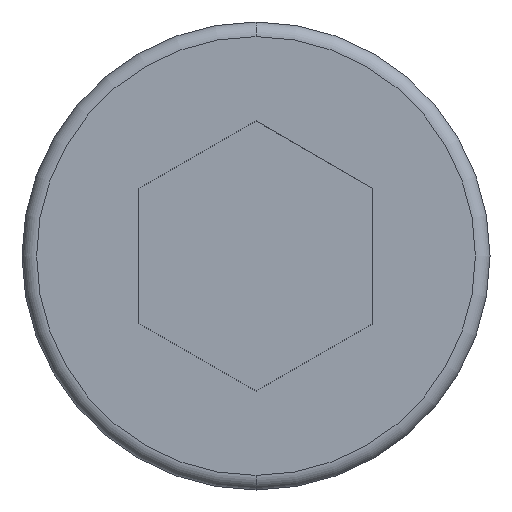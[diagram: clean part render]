
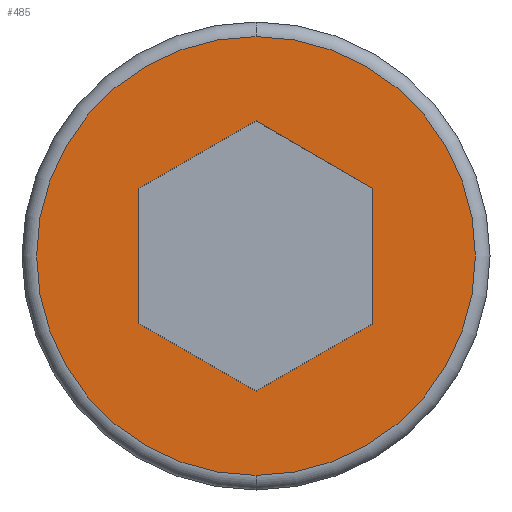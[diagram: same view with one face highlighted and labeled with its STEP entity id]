
A CAD part, front view. The second image highlights one B-rep face of the part: STEP entity #485.
In plain terms, the highlighted planar face has unit normal (0, -1, 0).
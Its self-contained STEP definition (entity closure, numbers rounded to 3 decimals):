
#14 = PLANE ( 'NONE',  #593 ) ;
#16 = CARTESIAN_POINT ( 'NONE',  ( -4., -10., 2.309 ) ) ;
#17 = LINE ( 'NONE', #445, #703 ) ;
#21 = LINE ( 'NONE', #427, #636 ) ;
#35 = VERTEX_POINT ( 'NONE', #471 ) ;
#42 = DIRECTION ( 'NONE',  ( -0.866, 0., -0.5 ) ) ;
#45 = DIRECTION ( 'NONE',  ( 0., -1., 0. ) ) ;
#57 = CIRCLE ( 'NONE', #82, 7.5 ) ;
#70 = CARTESIAN_POINT ( 'NONE',  ( -4., -10., -2.309 ) ) ;
#73 = CARTESIAN_POINT ( 'NONE',  ( -4., -10., -2.309 ) ) ;
#74 = CARTESIAN_POINT ( 'NONE',  ( 0., -10., -4.619 ) ) ;
#77 = VECTOR ( 'NONE', #628, 1000. ) ;
#82 = AXIS2_PLACEMENT_3D ( 'NONE', #508, #45, #108 ) ;
#84 = CARTESIAN_POINT ( 'NONE',  ( 4., -10., -2.309 ) ) ;
#107 = EDGE_LOOP ( 'NONE', ( #401, #743 ) ) ;
#108 = DIRECTION ( 'NONE',  ( 0., 0., -1. ) ) ;
#126 = EDGE_LOOP ( 'NONE', ( #270, #179, #190, #450, #235, #644 ) ) ;
#127 = CARTESIAN_POINT ( 'NONE',  ( 0., -10., -7.5 ) ) ;
#157 = VERTEX_POINT ( 'NONE', #127 ) ;
#159 = CARTESIAN_POINT ( 'NONE',  ( 0., -10., -4.619 ) ) ;
#161 = VERTEX_POINT ( 'NONE', #525 ) ;
#163 = DIRECTION ( 'NONE',  ( 0., -1., 0. ) ) ;
#174 = CARTESIAN_POINT ( 'NONE',  ( 4., -10., 2.309 ) ) ;
#179 = ORIENTED_EDGE ( 'NONE', *, *, #464, .F. ) ;
#190 = ORIENTED_EDGE ( 'NONE', *, *, #674, .F. ) ;
#222 = DIRECTION ( 'NONE',  ( 0., 0., -1. ) ) ;
#227 = VERTEX_POINT ( 'NONE', #74 ) ;
#235 = ORIENTED_EDGE ( 'NONE', *, *, #425, .F. ) ;
#250 = VECTOR ( 'NONE', #42, 1000. ) ;
#258 = EDGE_CURVE ( 'NONE', #737, #35, #21, .T. ) ;
#270 = ORIENTED_EDGE ( 'NONE', *, *, #483, .F. ) ;
#286 = FACE_OUTER_BOUND ( 'NONE', #107, .T. ) ;
#330 = DIRECTION ( 'NONE',  ( 0., 0., -1. ) ) ;
#388 = CARTESIAN_POINT ( 'NONE',  ( 0., -10., 4.619 ) ) ;
#401 = ORIENTED_EDGE ( 'NONE', *, *, #418, .T. ) ;
#418 = EDGE_CURVE ( 'NONE', #157, #161, #57, .T. ) ;
#419 = CIRCLE ( 'NONE', #690, 7.5 ) ;
#425 = EDGE_CURVE ( 'NONE', #35, #769, #757, .T. ) ;
#427 = CARTESIAN_POINT ( 'NONE',  ( 4., -10., 2.309 ) ) ;
#430 = VECTOR ( 'NONE', #744, 1000. ) ;
#445 = CARTESIAN_POINT ( 'NONE',  ( -4., -10., 2.309 ) ) ;
#450 = ORIENTED_EDGE ( 'NONE', *, *, #770, .F. ) ;
#464 = EDGE_CURVE ( 'NONE', #227, #577, #587, .T. ) ;
#471 = CARTESIAN_POINT ( 'NONE',  ( 0., -10., 4.619 ) ) ;
#483 = EDGE_CURVE ( 'NONE', #577, #737, #772, .T. ) ;
#485 = ADVANCED_FACE ( 'NONE', ( #286, #512 ), #14, .T. ) ;
#504 = LINE ( 'NONE', #73, #634 ) ;
#508 = CARTESIAN_POINT ( 'NONE',  ( 0., -10., 0. ) ) ;
#512 = FACE_BOUND ( 'NONE', #126, .T. ) ;
#525 = CARTESIAN_POINT ( 'NONE',  ( 0., -10., 7.5 ) ) ;
#535 = DIRECTION ( 'NONE',  ( -0.866, 0., 0.5 ) ) ;
#550 = CARTESIAN_POINT ( 'NONE',  ( 0., -10., 0. ) ) ;
#552 = DIRECTION ( 'NONE',  ( 0., -1., 0. ) ) ;
#577 = VERTEX_POINT ( 'NONE', #84 ) ;
#587 = LINE ( 'NONE', #159, #77 ) ;
#593 = AXIS2_PLACEMENT_3D ( 'NONE', #748, #552, #626 ) ;
#626 = DIRECTION ( 'NONE',  ( 0., 0., -1. ) ) ;
#628 = DIRECTION ( 'NONE',  ( 0.866, 0., 0.5 ) ) ;
#634 = VECTOR ( 'NONE', #733, 1000. ) ;
#636 = VECTOR ( 'NONE', #535, 1000. ) ;
#644 = ORIENTED_EDGE ( 'NONE', *, *, #258, .F. ) ;
#674 = EDGE_CURVE ( 'NONE', #675, #227, #504, .T. ) ;
#675 = VERTEX_POINT ( 'NONE', #70 ) ;
#677 = CARTESIAN_POINT ( 'NONE',  ( 4., -10., -2.309 ) ) ;
#690 = AXIS2_PLACEMENT_3D ( 'NONE', #550, #163, #330 ) ;
#703 = VECTOR ( 'NONE', #222, 1000. ) ;
#733 = DIRECTION ( 'NONE',  ( 0.866, 0., -0.5 ) ) ;
#737 = VERTEX_POINT ( 'NONE', #174 ) ;
#743 = ORIENTED_EDGE ( 'NONE', *, *, #759, .T. ) ;
#744 = DIRECTION ( 'NONE',  ( 0., 0., 1. ) ) ;
#748 = CARTESIAN_POINT ( 'NONE',  ( 0., -10., 0. ) ) ;
#757 = LINE ( 'NONE', #388, #250 ) ;
#759 = EDGE_CURVE ( 'NONE', #161, #157, #419, .T. ) ;
#769 = VERTEX_POINT ( 'NONE', #16 ) ;
#770 = EDGE_CURVE ( 'NONE', #769, #675, #17, .T. ) ;
#772 = LINE ( 'NONE', #677, #430 ) ;
